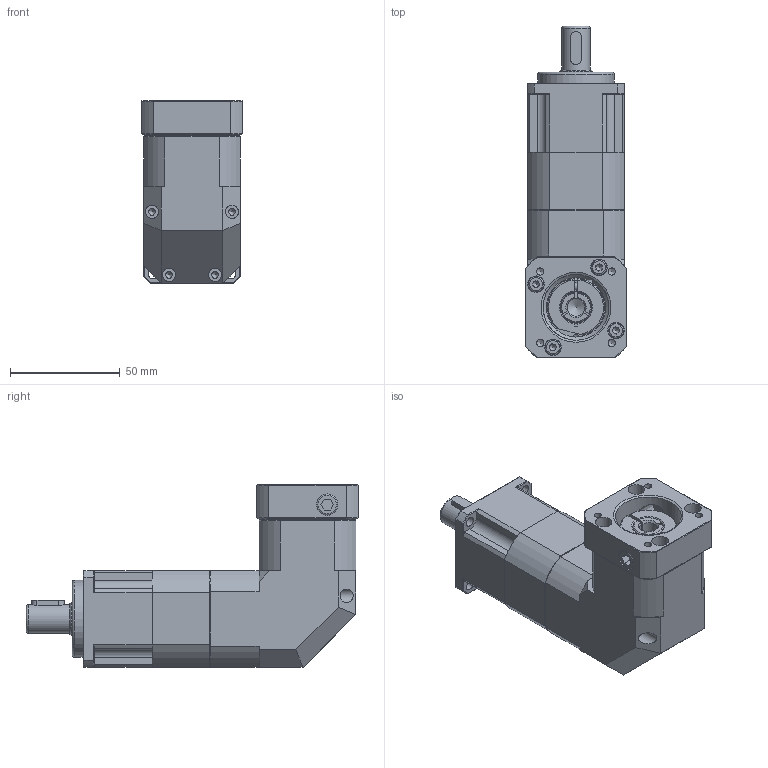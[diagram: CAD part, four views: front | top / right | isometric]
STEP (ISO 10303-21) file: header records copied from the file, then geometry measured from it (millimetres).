
FILE_DESCRIPTION((''),'2;1');
FILE_NAME('C:\Work\감속기 카다로그 도면\ATG Reducer(홈페이지)\PBL-H\STP\PBL44-H-2.stp','2014-05-27T14:47:51',('young'),(''),'Autodesk Inventor 2012','Autodesk Inventor 2012','');
FILE_SCHEMA(('AUTOMOTIVE_DESIGN { 1 0 10303 214 1 1 1 1 }'));
Length unit declared in the file: millimetre
Products named in the file (1): PBL44-H-2
Bounding box: 46 x 151 x 83 mm (x, y, z)
Volume: 209121.4 mm3; surface area: 73190.2 mm2
Topology: 21 solids, 21 shells, 663 faces, 1661 edges, 1082 vertices
Faces by surface type: plane 361, cylinder 149, cone 107, bspline 30, torus 16
Full cylindrical faces by diameter (mm): 2.5 x8, 3 x1, 3.3 x13, 3.5 x5, 4 x13, 4.5 x8, 5.5 x1, 6 x4, 7 x8, 7.5 x4, 8 x1, 9.5 x2, 11 x1, 13 x1, 14.2 x1, 14.8 x2, 15 x2, 22 x3, 25 x3, 27 x1, 28 x1, 29 x1, 30 x2, 32 x4, 34 x1, 35 x1, 37 x1
Entity records: 33472 total; most frequent: CARTESIAN_POINT 18785, DIRECTION 2907, ORIENTED_EDGE 2880, EDGE_CURVE 1440, AXIS2_PLACEMENT_3D 1114, VERTEX_POINT 1028, EDGE_LOOP 924, VECTOR 679
